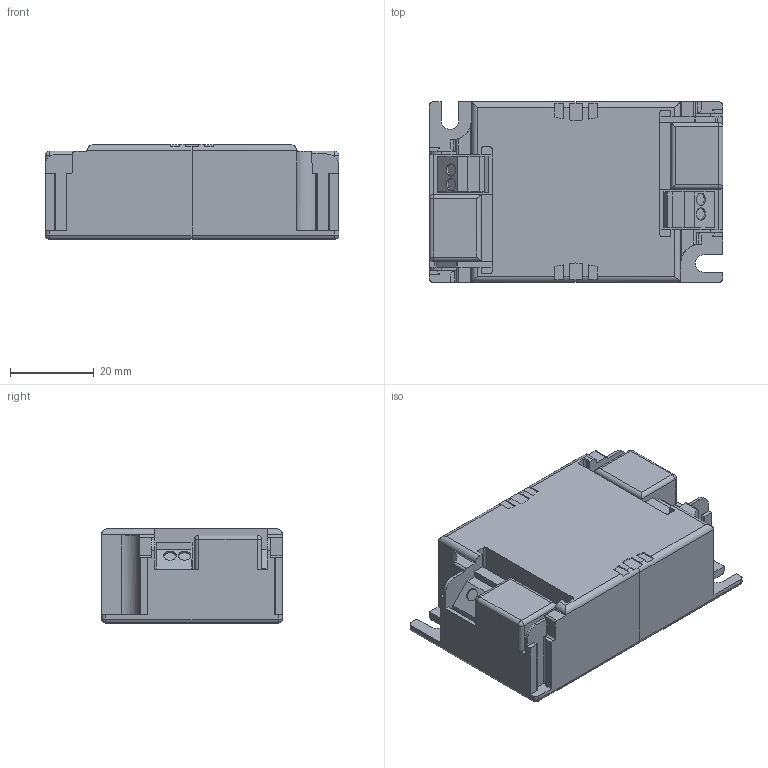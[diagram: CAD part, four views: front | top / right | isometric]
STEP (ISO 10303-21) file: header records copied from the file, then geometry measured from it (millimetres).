
FILE_DESCRIPTION((''),'2;1');
FILE_NAME('15011560_00','2017-09-12T',('Elon.Guo'),(''),'PRO/ENGINEER BY PARAMETRIC TECHNOLOGY CORPORATION, 2015200','PRO/ENGINEER BY PARAMETRIC TECHNOLOGY CORPORATION, 2015200','');
FILE_SCHEMA(('AUTOMOTIVE_DESIGN { 1 0 10303 214 1 1 1 1 }'));
Length unit declared in the file: millimetre
Products named in the file (1): 15011560_00
Bounding box: 70 x 43 x 22.5 mm (x, y, z)
Volume: 58400.9 mm3; surface area: 14257.4 mm2
Topology: 3 solids, 5 shells, 269 faces, 737 edges, 474 vertices
Faces by surface type: plane 163, cylinder 98, sphere 8
Entity records: 11286 total; most frequent: CARTESIAN_POINT 1650, ORIENTED_EDGE 1458, DIRECTION 1411, PRESENTATION_STYLE_ASSIGNMENT 754, STYLED_ITEM 732, CURVE_STYLE 729, EDGE_CURVE 729, VECTOR 521
